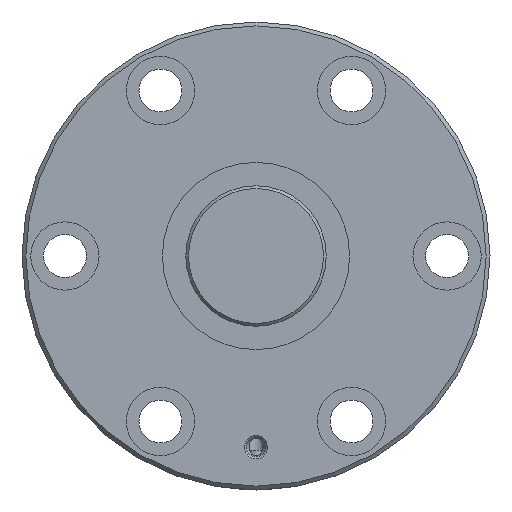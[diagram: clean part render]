
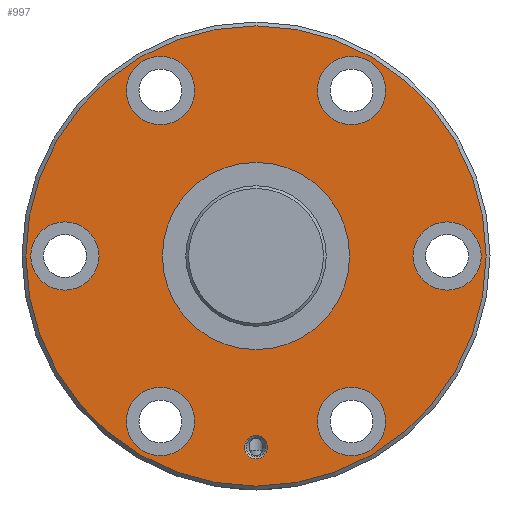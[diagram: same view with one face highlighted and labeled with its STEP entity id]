
A CAD part, left-side view. The second image highlights one B-rep face of the part: STEP entity #997.
In plain terms, the highlighted planar face has unit normal (-1, 0, 0).
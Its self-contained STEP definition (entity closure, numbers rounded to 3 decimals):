
#155=ORIENTED_EDGE('',*,*,#368,.T.);
#156=ORIENTED_EDGE('',*,*,#369,.T.);
#157=ORIENTED_EDGE('',*,*,#370,.T.);
#158=ORIENTED_EDGE('',*,*,#371,.T.);
#159=ORIENTED_EDGE('',*,*,#372,.T.);
#160=ORIENTED_EDGE('',*,*,#373,.T.);
#161=ORIENTED_EDGE('',*,*,#374,.T.);
#162=ORIENTED_EDGE('',*,*,#375,.T.);
#163=ORIENTED_EDGE('',*,*,#367,.F.);
#367=EDGE_CURVE('',#477,#477,#570,.T.);
#368=EDGE_CURVE('',#478,#478,#571,.T.);
#369=EDGE_CURVE('',#479,#479,#572,.F.);
#370=EDGE_CURVE('',#480,#480,#573,.T.);
#371=EDGE_CURVE('',#481,#481,#574,.T.);
#372=EDGE_CURVE('',#482,#482,#575,.T.);
#373=EDGE_CURVE('',#483,#483,#576,.T.);
#374=EDGE_CURVE('',#484,#484,#577,.T.);
#375=EDGE_CURVE('',#485,#485,#578,.T.);
#477=VERTEX_POINT('',#1668);
#478=VERTEX_POINT('',#1671);
#479=VERTEX_POINT('',#1673);
#480=VERTEX_POINT('',#1675);
#481=VERTEX_POINT('',#1677);
#482=VERTEX_POINT('',#1679);
#483=VERTEX_POINT('',#1681);
#484=VERTEX_POINT('',#1683);
#485=VERTEX_POINT('',#1685);
#570=CIRCLE('',#1111,59.);
#571=CIRCLE('',#1113,24.);
#572=CIRCLE('',#1114,8.75);
#573=CIRCLE('',#1115,3.);
#574=CIRCLE('',#1116,8.75);
#575=CIRCLE('',#1117,8.75);
#576=CIRCLE('',#1118,8.75);
#577=CIRCLE('',#1119,8.75);
#578=CIRCLE('',#1120,8.75);
#658=EDGE_LOOP('',(#155));
#659=EDGE_LOOP('',(#156));
#660=EDGE_LOOP('',(#157));
#661=EDGE_LOOP('',(#158));
#662=EDGE_LOOP('',(#159));
#663=EDGE_LOOP('',(#160));
#664=EDGE_LOOP('',(#161));
#665=EDGE_LOOP('',(#162));
#666=EDGE_LOOP('',(#163));
#818=FACE_BOUND('',#658,.T.);
#819=FACE_BOUND('',#659,.T.);
#820=FACE_BOUND('',#660,.T.);
#821=FACE_BOUND('',#661,.T.);
#822=FACE_BOUND('',#662,.T.);
#823=FACE_BOUND('',#663,.T.);
#824=FACE_BOUND('',#664,.T.);
#825=FACE_BOUND('',#665,.T.);
#826=FACE_BOUND('',#666,.T.);
#960=PLANE('',#1112);
#997=ADVANCED_FACE('',(#818,#819,#820,#821,#822,#823,#824,#825,#826),#960,
 .T.);
#1111=AXIS2_PLACEMENT_3D('',#1667,#1295,#1296);
#1112=AXIS2_PLACEMENT_3D('',#1669,#1297,#1298);
#1113=AXIS2_PLACEMENT_3D('',#1670,#1299,#1300);
#1114=AXIS2_PLACEMENT_3D('',#1672,#1301,#1302);
#1115=AXIS2_PLACEMENT_3D('',#1674,#1303,#1304);
#1116=AXIS2_PLACEMENT_3D('',#1676,#1305,#1306);
#1117=AXIS2_PLACEMENT_3D('',#1678,#1307,#1308);
#1118=AXIS2_PLACEMENT_3D('',#1680,#1309,#1310);
#1119=AXIS2_PLACEMENT_3D('',#1682,#1311,#1312);
#1120=AXIS2_PLACEMENT_3D('',#1684,#1313,#1314);
#1295=DIRECTION('',(1.,0.,0.));
#1296=DIRECTION('',(0.,0.,-1.));
#1297=DIRECTION('',(-1.,0.,0.));
#1298=DIRECTION('',(0.,0.,1.));
#1299=DIRECTION('',(1.,0.,0.));
#1300=DIRECTION('',(0.,0.,-1.));
#1301=DIRECTION('',(-1.,0.,0.));
#1302=DIRECTION('',(0.,0.,1.));
#1303=DIRECTION('',(1.,0.,0.));
#1304=DIRECTION('',(0.,0.,-1.));
#1305=DIRECTION('',(1.,0.,0.));
#1306=DIRECTION('',(0.,0.,-1.));
#1307=DIRECTION('',(1.,0.,0.));
#1308=DIRECTION('',(0.,0.,-1.));
#1309=DIRECTION('',(1.,0.,0.));
#1310=DIRECTION('',(0.,0.,-1.));
#1311=DIRECTION('',(1.,0.,0.));
#1312=DIRECTION('',(0.,0.,-1.));
#1313=DIRECTION('',(1.,0.,0.));
#1314=DIRECTION('',(0.,0.,-1.));
#1667=CARTESIAN_POINT('',(0.,0.,0.));
#1668=CARTESIAN_POINT('',(0.,0.,-59.));
#1669=CARTESIAN_POINT('',(0.,59.,0.));
#1670=CARTESIAN_POINT('',(0.,0.,0.));
#1671=CARTESIAN_POINT('',(0.,0.,-24.));
#1672=CARTESIAN_POINT('',(0.,49.,0.));
#1673=CARTESIAN_POINT('',(0.,49.,8.75));
#1674=CARTESIAN_POINT('',(0.,0.,-49.));
#1675=CARTESIAN_POINT('',(0.,0.,-52.));
#1676=CARTESIAN_POINT('',(0.,-49.,0.));
#1677=CARTESIAN_POINT('',(0.,-49.,-8.75));
#1678=CARTESIAN_POINT('',(0.,24.5,42.435));
#1679=CARTESIAN_POINT('',(0.,24.5,33.685));
#1680=CARTESIAN_POINT('',(0.,-24.5,-42.435));
#1681=CARTESIAN_POINT('',(0.,-24.5,-51.185));
#1682=CARTESIAN_POINT('',(0.,-24.5,42.435));
#1683=CARTESIAN_POINT('',(0.,-24.5,33.685));
#1684=CARTESIAN_POINT('',(0.,24.5,-42.435));
#1685=CARTESIAN_POINT('',(0.,24.5,-51.185));
